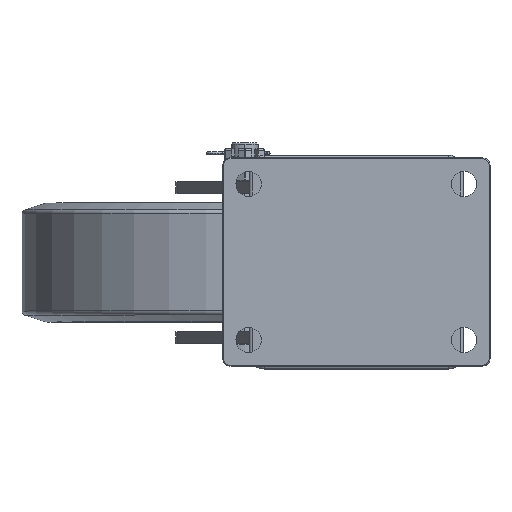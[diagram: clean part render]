
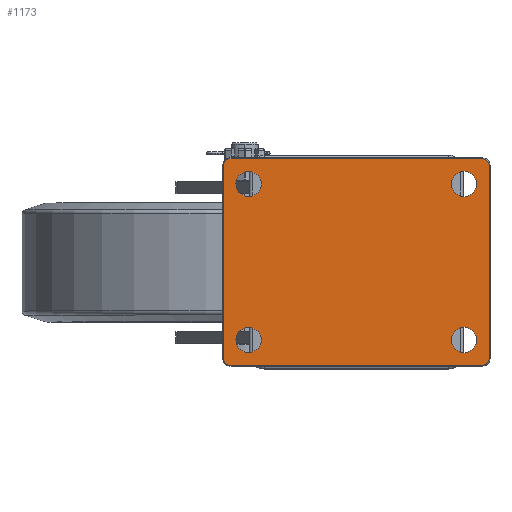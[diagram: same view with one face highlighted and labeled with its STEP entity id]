
A CAD part, top view. The second image highlights one B-rep face of the part: STEP entity #1173.
In plain terms, the highlighted planar face has unit normal (0, 0, 1).
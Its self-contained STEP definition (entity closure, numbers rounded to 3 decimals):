
#94=FACE_BOUND('',#2692,.T.);
#95=FACE_BOUND('',#2693,.T.);
#96=FACE_BOUND('',#2694,.T.);
#97=FACE_BOUND('',#2695,.T.);
#98=FACE_BOUND('',#2696,.T.);
#348=PLANE('',#12964);
#1173=ADVANCED_FACE('',(#94,#95,#96,#97,#98),#348,.T.);
#2692=EDGE_LOOP('',(#6832,#6833,#6834,#6835,#6836,#6837,#6838,#6839));
#2693=EDGE_LOOP('',(#6840,#6841));
#2694=EDGE_LOOP('',(#6842,#6843));
#2695=EDGE_LOOP('',(#6844,#6845));
#2696=EDGE_LOOP('',(#6846,#6847));
#3969=LINE('',#23671,#4657);
#3970=LINE('',#23673,#4658);
#3971=LINE('',#23678,#4659);
#3972=LINE('',#23682,#4660);
#4657=VECTOR('',#14971,1.);
#4658=VECTOR('',#14974,1.);
#4659=VECTOR('',#14977,1.);
#4660=VECTOR('',#14980,1.);
#6832=ORIENTED_EDGE('',*,*,#10949,.F.);
#6833=ORIENTED_EDGE('',*,*,#10950,.F.);
#6834=ORIENTED_EDGE('',*,*,#10951,.F.);
#6835=ORIENTED_EDGE('',*,*,#10952,.F.);
#6836=ORIENTED_EDGE('',*,*,#10953,.F.);
#6837=ORIENTED_EDGE('',*,*,#10954,.F.);
#6838=ORIENTED_EDGE('',*,*,#10948,.F.);
#6839=ORIENTED_EDGE('',*,*,#10955,.F.);
#6840=ORIENTED_EDGE('',*,*,#10956,.F.);
#6841=ORIENTED_EDGE('',*,*,#10957,.F.);
#6842=ORIENTED_EDGE('',*,*,#10958,.F.);
#6843=ORIENTED_EDGE('',*,*,#10959,.F.);
#6844=ORIENTED_EDGE('',*,*,#10960,.F.);
#6845=ORIENTED_EDGE('',*,*,#10961,.F.);
#6846=ORIENTED_EDGE('',*,*,#10962,.F.);
#6847=ORIENTED_EDGE('',*,*,#10963,.F.);
#9488=VERTEX_POINT('',#23668);
#9489=VERTEX_POINT('',#23670);
#9490=VERTEX_POINT('',#23674);
#9491=VERTEX_POINT('',#23675);
#9492=VERTEX_POINT('',#23677);
#9493=VERTEX_POINT('',#23679);
#9494=VERTEX_POINT('',#23681);
#9495=VERTEX_POINT('',#23683);
#9496=VERTEX_POINT('',#23687);
#9497=VERTEX_POINT('',#23688);
#9498=VERTEX_POINT('',#23691);
#9499=VERTEX_POINT('',#23692);
#9500=VERTEX_POINT('',#23695);
#9501=VERTEX_POINT('',#23696);
#9502=VERTEX_POINT('',#23699);
#9503=VERTEX_POINT('',#23700);
#10948=EDGE_CURVE('',#9489,#9488,#3969,.T.);
#10949=EDGE_CURVE('',#9490,#9491,#3970,.T.);
#10950=EDGE_CURVE('',#9492,#9490,#12138,.T.);
#10951=EDGE_CURVE('',#9493,#9492,#3971,.T.);
#10952=EDGE_CURVE('',#9494,#9493,#12139,.T.);
#10953=EDGE_CURVE('',#9495,#9494,#3972,.T.);
#10954=EDGE_CURVE('',#9488,#9495,#12140,.T.);
#10955=EDGE_CURVE('',#9491,#9489,#12141,.T.);
#10956=EDGE_CURVE('',#9496,#9497,#12142,.T.);
#10957=EDGE_CURVE('',#9497,#9496,#12143,.T.);
#10958=EDGE_CURVE('',#9498,#9499,#12144,.T.);
#10959=EDGE_CURVE('',#9499,#9498,#12145,.T.);
#10960=EDGE_CURVE('',#9500,#9501,#12146,.T.);
#10961=EDGE_CURVE('',#9501,#9500,#12147,.T.);
#10962=EDGE_CURVE('',#9502,#9503,#12148,.T.);
#10963=EDGE_CURVE('',#9503,#9502,#12149,.T.);
#12138=CIRCLE('',#12952,4.5);
#12139=CIRCLE('',#12953,4.5);
#12140=CIRCLE('',#12954,4.5);
#12141=CIRCLE('',#12955,4.5);
#12142=CIRCLE('',#12956,8.5);
#12143=CIRCLE('',#12957,8.5);
#12144=CIRCLE('',#12958,8.5);
#12145=CIRCLE('',#12959,8.5);
#12146=CIRCLE('',#12960,8.5);
#12147=CIRCLE('',#12961,8.5);
#12148=CIRCLE('',#12962,8.5);
#12149=CIRCLE('',#12963,8.5);
#12952=AXIS2_PLACEMENT_3D('',#23676,#14975,#14976);
#12953=AXIS2_PLACEMENT_3D('',#23680,#14978,#14979);
#12954=AXIS2_PLACEMENT_3D('',#23684,#14981,#14982);
#12955=AXIS2_PLACEMENT_3D('',#23685,#14983,#14984);
#12956=AXIS2_PLACEMENT_3D('',#23686,#14985,#14986);
#12957=AXIS2_PLACEMENT_3D('',#23689,#14987,#14988);
#12958=AXIS2_PLACEMENT_3D('',#23690,#14989,#14990);
#12959=AXIS2_PLACEMENT_3D('',#23693,#14991,#14992);
#12960=AXIS2_PLACEMENT_3D('',#23694,#14993,#14994);
#12961=AXIS2_PLACEMENT_3D('',#23697,#14995,#14996);
#12962=AXIS2_PLACEMENT_3D('',#23698,#14997,#14998);
#12963=AXIS2_PLACEMENT_3D('',#23701,#14999,#15000);
#12964=AXIS2_PLACEMENT_3D('',#23702,#15001,#15002);
#14971=DIRECTION('',(1.,0.,0.));
#14974=DIRECTION('',(0.,1.,0.));
#14975=DIRECTION('',(0.,0.,-1.));
#14976=DIRECTION('',(0.,-1.,0.));
#14977=DIRECTION('',(-1.,0.,0.));
#14978=DIRECTION('',(0.,0.,-1.));
#14979=DIRECTION('',(1.,0.,0.));
#14980=DIRECTION('',(0.,-1.,0.));
#14981=DIRECTION('',(0.,0.,-1.));
#14982=DIRECTION('',(0.,1.,0.));
#14983=DIRECTION('',(0.,0.,-1.));
#14984=DIRECTION('',(-1.,0.,0.));
#14985=DIRECTION('',(0.,0.,1.));
#14986=DIRECTION('',(1.,0.,0.));
#14987=DIRECTION('',(0.,0.,1.));
#14988=DIRECTION('',(-1.,0.,0.));
#14989=DIRECTION('',(0.,0.,1.));
#14990=DIRECTION('',(1.,0.,0.));
#14991=DIRECTION('',(0.,0.,1.));
#14992=DIRECTION('',(-1.,0.,0.));
#14993=DIRECTION('',(0.,0.,1.));
#14994=DIRECTION('',(1.,0.,0.));
#14995=DIRECTION('',(0.,0.,1.));
#14996=DIRECTION('',(-1.,0.,0.));
#14997=DIRECTION('',(0.,0.,1.));
#14998=DIRECTION('',(1.,0.,0.));
#14999=DIRECTION('',(0.,0.,1.));
#15000=DIRECTION('',(-1.,0.,0.));
#15001=DIRECTION('',(0.,0.,1.));
#15002=DIRECTION('',(-1.,0.,0.));
#23668=CARTESIAN_POINT('',(85.,69.5,0.));
#23670=CARTESIAN_POINT('',(-85.,69.5,0.));
#23671=CARTESIAN_POINT('',(-85.,69.5,0.));
#23673=CARTESIAN_POINT('',(-89.5,-65.,0.));
#23674=CARTESIAN_POINT('',(-89.5,-65.,0.));
#23675=CARTESIAN_POINT('',(-89.5,65.,0.));
#23676=CARTESIAN_POINT('',(-85.,-65.,0.));
#23677=CARTESIAN_POINT('',(-85.,-69.5,0.));
#23678=CARTESIAN_POINT('',(85.,-69.5,0.));
#23679=CARTESIAN_POINT('',(85.,-69.5,0.));
#23680=CARTESIAN_POINT('',(85.,-65.,0.));
#23681=CARTESIAN_POINT('',(89.5,-65.,0.));
#23682=CARTESIAN_POINT('',(89.5,65.,0.));
#23683=CARTESIAN_POINT('',(89.5,65.,0.));
#23684=CARTESIAN_POINT('',(85.,65.,0.));
#23685=CARTESIAN_POINT('',(-85.,65.,0.));
#23686=CARTESIAN_POINT('',(72.5,-52.5,0.));
#23687=CARTESIAN_POINT('',(81.,-52.5,0.));
#23688=CARTESIAN_POINT('',(64.,-52.5,0.));
#23689=CARTESIAN_POINT('',(72.5,-52.5,0.));
#23690=CARTESIAN_POINT('',(-72.5,52.5,0.));
#23691=CARTESIAN_POINT('',(-64.,52.5,0.));
#23692=CARTESIAN_POINT('',(-81.,52.5,0.));
#23693=CARTESIAN_POINT('',(-72.5,52.5,0.));
#23694=CARTESIAN_POINT('',(-72.5,-52.5,0.));
#23695=CARTESIAN_POINT('',(-64.,-52.5,0.));
#23696=CARTESIAN_POINT('',(-81.,-52.5,0.));
#23697=CARTESIAN_POINT('',(-72.5,-52.5,0.));
#23698=CARTESIAN_POINT('',(72.5,52.5,0.));
#23699=CARTESIAN_POINT('',(81.,52.5,0.));
#23700=CARTESIAN_POINT('',(64.,52.5,0.));
#23701=CARTESIAN_POINT('',(72.5,52.5,0.));
#23702=CARTESIAN_POINT('',(0.,0.,0.));
